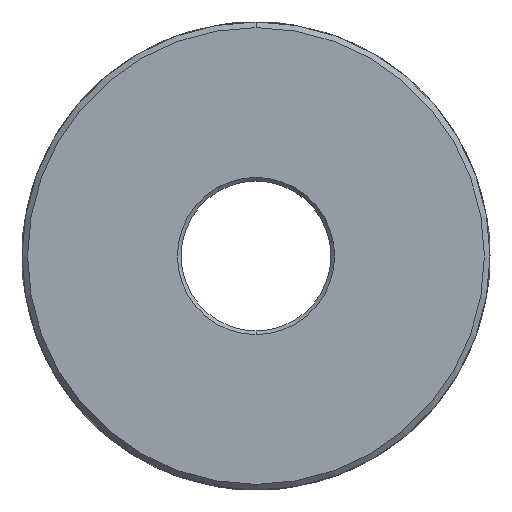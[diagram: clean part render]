
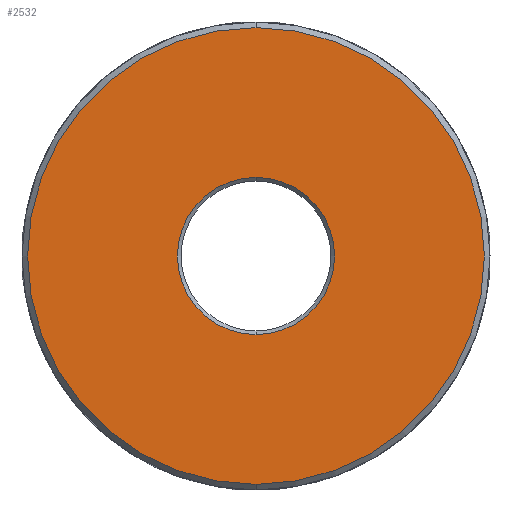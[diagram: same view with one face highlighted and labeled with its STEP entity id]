
A CAD part, front view. The second image highlights one B-rep face of the part: STEP entity #2532.
In plain terms, the highlighted planar face has unit normal (0, -1, 0).
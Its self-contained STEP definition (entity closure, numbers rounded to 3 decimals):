
#336 = CARTESIAN_POINT ( 'NONE',  ( 0., 0., 0. ) ) ;
#528 = AXIS2_PLACEMENT_3D ( 'NONE', #5861, #2362, #6455 ) ;
#723 = EDGE_LOOP ( 'NONE', ( #1886, #5642 ) ) ;
#973 = PLANE ( 'NONE',  #7441 ) ;
#1066 = CARTESIAN_POINT ( 'NONE',  ( 0., 0., -8.4 ) ) ;
#1119 = FACE_BOUND ( 'NONE', #1279, .T. ) ;
#1279 = EDGE_LOOP ( 'NONE', ( #2856, #3892 ) ) ;
#1530 = CIRCLE ( 'NONE', #6779, 8.4 ) ;
#1597 = VERTEX_POINT ( 'NONE', #1066 ) ;
#1613 = AXIS2_PLACEMENT_3D ( 'NONE', #336, #7381, #3883 ) ;
#1886 = ORIENTED_EDGE ( 'NONE', *, *, #5444, .T. ) ;
#2207 = EDGE_CURVE ( 'NONE', #1597, #5357, #3407, .T. ) ;
#2316 = DIRECTION ( 'NONE',  ( 0., -1., 0. ) ) ;
#2362 = DIRECTION ( 'NONE',  ( 0., -1., 0. ) ) ;
#2532 = ADVANCED_FACE ( 'NONE', ( #1119, #3688 ), #973, .F. ) ;
#2856 = ORIENTED_EDGE ( 'NONE', *, *, #2207, .T. ) ;
#3133 = CARTESIAN_POINT ( 'NONE',  ( 0., 0., 0. ) ) ;
#3155 = DIRECTION ( 'NONE',  ( 0., 1., 0. ) ) ;
#3407 = CIRCLE ( 'NONE', #1613, 8.4 ) ;
#3523 = AXIS2_PLACEMENT_3D ( 'NONE', #5815, #2316, #7016 ) ;
#3649 = EDGE_CURVE ( 'NONE', #5399, #5325, #5564, .T. ) ;
#3688 = FACE_OUTER_BOUND ( 'NONE', #723, .T. ) ;
#3728 = CIRCLE ( 'NONE', #528, 24.4 ) ;
#3883 = DIRECTION ( 'NONE',  ( 0., 0., 1. ) ) ;
#3892 = ORIENTED_EDGE ( 'NONE', *, *, #4175, .T. ) ;
#3994 = DIRECTION ( 'NONE',  ( 0., 0., 1. ) ) ;
#4175 = EDGE_CURVE ( 'NONE', #5357, #1597, #1530, .T. ) ;
#5088 = CARTESIAN_POINT ( 'NONE',  ( -50., 0., 32.858 ) ) ;
#5325 = VERTEX_POINT ( 'NONE', #6776 ) ;
#5357 = VERTEX_POINT ( 'NONE', #6346 ) ;
#5393 = DIRECTION ( 'NONE',  ( 0., 0., 1. ) ) ;
#5399 = VERTEX_POINT ( 'NONE', #6295 ) ;
#5444 = EDGE_CURVE ( 'NONE', #5325, #5399, #3728, .T. ) ;
#5564 = CIRCLE ( 'NONE', #3523, 24.4 ) ;
#5642 = ORIENTED_EDGE ( 'NONE', *, *, #3649, .T. ) ;
#5815 = CARTESIAN_POINT ( 'NONE',  ( 0., 0., 0. ) ) ;
#5861 = CARTESIAN_POINT ( 'NONE',  ( 0., 0., 0. ) ) ;
#6295 = CARTESIAN_POINT ( 'NONE',  ( 0., 0., -24.4 ) ) ;
#6319 = DIRECTION ( 'NONE',  ( 0., 1., 0. ) ) ;
#6346 = CARTESIAN_POINT ( 'NONE',  ( 0., 0., 8.4 ) ) ;
#6455 = DIRECTION ( 'NONE',  ( 0., 0., 1. ) ) ;
#6776 = CARTESIAN_POINT ( 'NONE',  ( 0., 0., 24.4 ) ) ;
#6779 = AXIS2_PLACEMENT_3D ( 'NONE', #3133, #3155, #5393 ) ;
#7016 = DIRECTION ( 'NONE',  ( 0., 0., 1. ) ) ;
#7381 = DIRECTION ( 'NONE',  ( 0., 1., 0. ) ) ;
#7441 = AXIS2_PLACEMENT_3D ( 'NONE', #5088, #6319, #3994 ) ;
